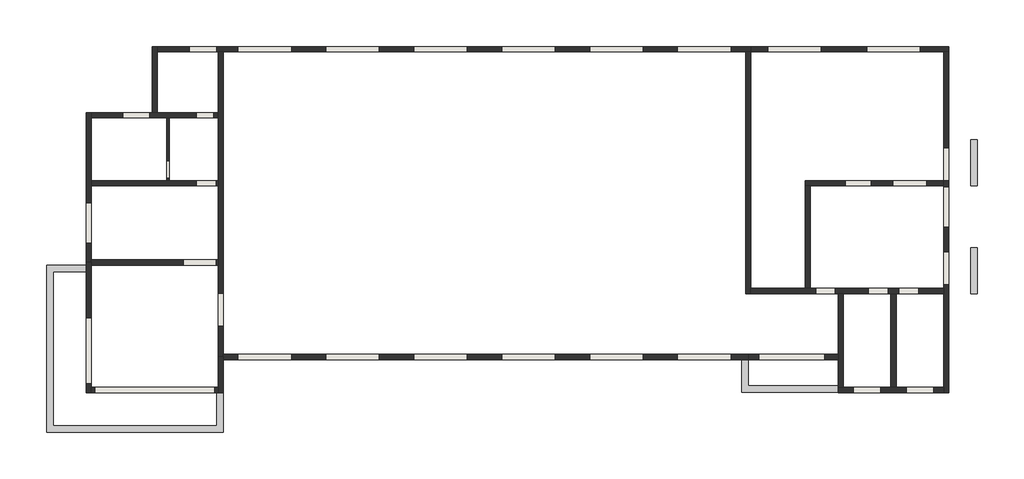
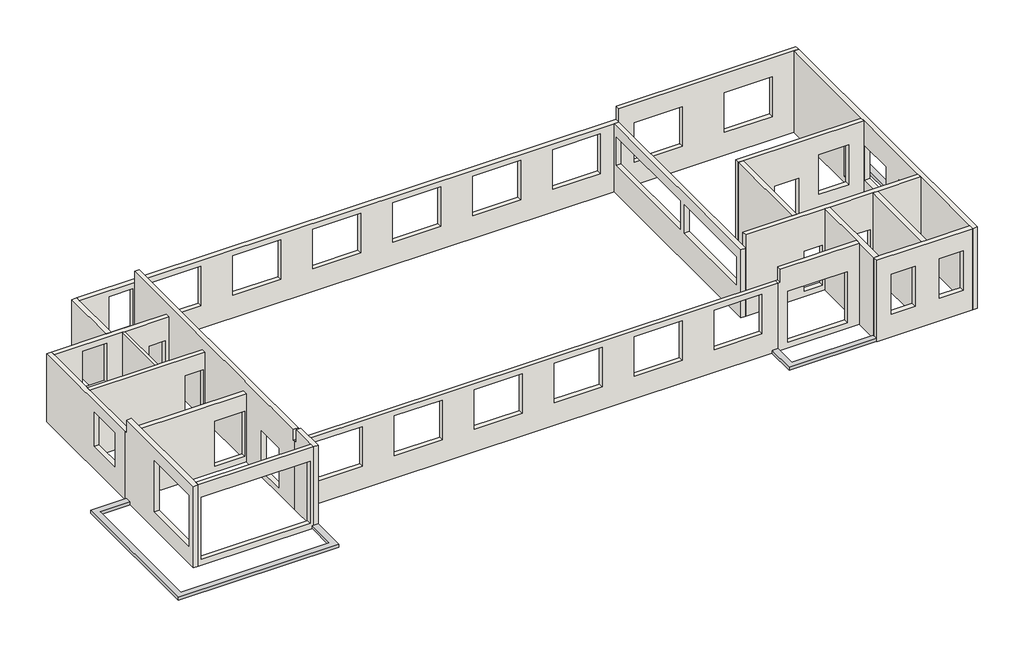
# One storey: 22 walls, 5 stairs.
"""IFC4 building model written with IfcOpenShell, lengths in millimetres."""

from ifc_helpers import new_model, si_unit, frame, origin, place, context, project, spatial, polyline, outline, extrude, faceted_brep, transform, mapped, element, save
from components import stair_686c99e5, stair_016f0c91, stair_664da505

model = new_model("IFC4")

# Units and contexts
model_context = context("Model", 3, world=origin())
ifc_project = project(units=[si_unit("LENGTHUNIT", "METRE", prefix="MILLI")], contexts=[model_context])

# Site, building, storey
site = spatial("IfcSite", under=ifc_project)
building = spatial("IfcBuilding", under=site)
storey = spatial("IfcBuildingStorey", under=building, Name="室外地坪", Elevation=-300.0)

# Stairs
placement = place(None, origin())
stair_shape = stair_686c99e5(model_context)
element("IfcStair", 1, ObjectType="楼梯 1 : 楼梯 1", at=placement, inside=storey, context=model_context, shape_type="MappedRepresentation", body=[
    mapped(stair_shape, transform((0.0, 0.0, 0.0), x_axis=(1.0, 0.0, 0.0), y_axis=(0.0, 1.0, 0.0), z_axis=(0.0, 0.0, 1.0))),
])
stair_2_shape = stair_016f0c91(model_context)
element("IfcStair", 2, ObjectType="楼梯 2 : 楼梯 2", at=placement, inside=storey, context=model_context, shape_type="MappedRepresentation", body=[
    mapped(stair_2_shape, transform((0.0, 0.0, 0.0), x_axis=(1.0, 0.0, 0.0), y_axis=(0.0, 1.0, 0.0), z_axis=(0.0, 0.0, 1.0))),
])
stair_3_shape = stair_664da505(model_context)
element("IfcStair", 3, at=placement, inside=storey, context=model_context, shape_type="MappedRepresentation", body=[
    mapped(stair_3_shape, transform((0.0, 0.0, 0.0), x_axis=(1.0, 0.0, 0.0), y_axis=(0.0, 1.0, 0.0), z_axis=(0.0, 0.0, 1.0))),
])
element("IfcStair", 4, at=placement, inside=storey, context=model_context, shape_type="MappedRepresentation", body=[
    mapped(stair_3_shape, transform((0.0, 0.0, 0.0), x_axis=(1.0, 0.0, 0.0), y_axis=(0.0, 1.0, 0.0), z_axis=(0.0, 0.0, 1.0))),
])
element("IfcStair", 5, ObjectType="楼梯 5 : 楼梯 3", at=placement, inside=storey, context=model_context, shape_type="MappedRepresentation", body=[
    mapped(stair_3_shape, transform((0.0, 4900.0, 0.0), x_axis=(1.0, 0.0, 0.0), y_axis=(0.0, 1.0, 0.0), z_axis=(0.0, 0.0, 1.0))),
])

# Walls
element("IfcWall", 6, ObjectType="240mm墙", at=placement, inside=storey, context=model_context, shape_type="Brep", body=[
    faceted_brep([(-3434.8947527, -10248.768361, -300.0), (-3434.8947527, -10008.768361, -300.0), (-3434.8947527, -4448.768361, -300.0), (-3434.8947527, -4328.768361, -300.0), (-3434.8947527, -4328.768361, 3300.0), (-3434.8947527, -4448.768361, 3300.0), (-3434.8947527, -4448.768361, 4000.0), (-3434.8947527, -10008.768361, 4000.0), (-3434.8947527, -10248.768361, 4000.0), (-3434.8947527, -9848.768361, 600.0), (-3434.8947527, -9848.768361, 3300.0), (-3434.8947527, -6848.768361, 3300.0), (-3434.8947527, -6848.768361, 600.0), (-3674.8947527, -4328.768361, -300.0), (-3674.8947527, -10248.768361, -300.0), (-3674.8947527, -10248.768361, 4000.0), (-3674.8947527, -4448.768361, 4000.0), (-3674.8947527, -4448.768361, 3300.0), (-3674.8947527, -4328.768361, 3300.0), (-3674.8947527, -9848.768361, 3300.0), (-3674.8947527, -9848.768361, 600.0), (-3674.8947527, -6848.768361, 600.0), (-3674.8947527, -6848.768361, 3300.0)], [[[0, 1, 2, 3, 4, 5, 6, 7, 8], [9, 10, 11, 12]], [[13, 14, 15, 16, 17, 18], [19, 20, 21, 22]], [[3, 2, 1, 0, 14, 13]], [[8, 7, 6, 16, 15]], [[0, 8, 15, 14]], [[9, 20, 19, 10]], [[11, 22, 21, 12]], [[20, 9, 12, 21]], [[22, 11, 10, 19]], [[3, 13, 18, 4]], [[5, 4, 18, 17]], [[6, 5, 17, 16]]]),
])
element("IfcWall", 7, ObjectType="240mm墙", at=placement, inside=storey, context=model_context, shape_type="Brep", body=[
    faceted_brep([(-3434.8947527, 2251.231639, -300.0), (-14.8947527, 2251.231639, -300.0), (105.1052473, 2251.231639, -300.0), (2325.1052473, 2251.231639, -300.0), (2325.1052473, 2251.231639, 3300.0), (105.1052473, 2251.231639, 3300.0), (-14.8947527, 2251.231639, 3300.0), (-3434.8947527, 2251.231639, 3300.0), (1325.1052473, 2251.231639, 0.0), (1325.1052473, 2251.231639, 2100.0), (2125.1052473, 2251.231639, 2100.0), (2125.1052473, 2251.231639, 0.0), (-794.8947527, 2251.231639, 900.0), (-1994.8947527, 2251.231639, 900.0), (-1994.8947527, 2251.231639, 3000.0), (-794.8947527, 2251.231639, 3000.0), (-3434.8947527, 2491.231639, -300.0), (-3434.8947527, 2491.231639, 3300.0), (-674.8947527, 2491.231639, 3300.0), (-434.8947527, 2491.231639, 3300.0), (2325.1052473, 2491.231639, 3300.0), (2325.1052473, 2491.231639, -300.0), (-434.8947527, 2491.231639, -300.0), (-674.8947527, 2491.231639, -300.0), (1325.1052473, 2491.231639, 0.0), (2125.1052473, 2491.231639, 0.0), (2125.1052473, 2491.231639, 2100.0), (1325.1052473, 2491.231639, 2100.0), (-794.8947527, 2491.231639, 900.0), (-794.8947527, 2491.231639, 3000.0), (-1994.8947527, 2491.231639, 3000.0), (-1994.8947527, 2491.231639, 900.0)], [[[0, 1, 2, 3, 4, 5, 6, 7], [8, 9, 10, 11], [12, 13, 14, 15]], [[16, 17, 18, 19, 20, 21, 22, 23], [24, 25, 26, 27], [28, 29, 30, 31]], [[3, 2, 1, 0, 16, 23, 22, 21]], [[7, 6, 5, 4, 20, 19, 18, 17]], [[0, 7, 17, 16]], [[4, 3, 21, 20]], [[25, 24, 8, 11]], [[26, 25, 11, 10]], [[27, 26, 10, 9]], [[24, 27, 9, 8]], [[29, 28, 12, 15]], [[30, 29, 15, 14]], [[31, 30, 14, 13]], [[28, 31, 13, 12]]]),
])
element("IfcWall", 8, ObjectType="240mm墙", at=placement, inside=storey, context=model_context, shape_type="Brep", body=[
    faceted_brep([(-434.8947527, 2491.231639, -300.0), (-434.8947527, 5251.231639, -300.0), (-434.8947527, 5491.231639, -300.0), (-434.8947527, 5491.231639, 3300.0), (-434.8947527, 5251.231639, 3300.0), (-434.8947527, 2491.231639, 3300.0), (-674.8947527, 2491.231639, -300.0), (-674.8947527, 2491.231639, 3300.0), (-674.8947527, 5491.231639, 3300.0), (-674.8947527, 5491.231639, -300.0)], [[[0, 1, 2, 3, 4, 5]], [[6, 7, 8, 9]], [[2, 1, 0, 6, 9]], [[5, 4, 3, 8, 7]], [[0, 5, 7, 6]], [[3, 2, 9, 8]]]),
])
element("IfcWall", 9, ObjectType="240mm墙", at=placement, inside=storey, context=model_context, shape_type="Brep", body=[
    faceted_brep([(-434.8947527, 5251.231639, -300.0), (2325.1052473, 5251.231639, -300.0), (2565.1052473, 5251.231639, -300.0), (26325.1052473, 5251.231639, -300.0), (26565.1052473, 5251.231639, -300.0), (26565.1052473, 5251.231639, 3300.0), (26325.1052473, 5251.231639, 3300.0), (-434.8947527, 5251.231639, 3300.0), (25645.1052473, 5251.231639, 900.0), (23245.1052473, 5251.231639, 900.0), (23245.1052473, 5251.231639, 3000.0), (25645.1052473, 5251.231639, 3000.0), (21645.1052473, 5251.231639, 900.0), (19245.1052473, 5251.231639, 900.0), (19245.1052473, 5251.231639, 3000.0), (21645.1052473, 5251.231639, 3000.0), (17645.1052473, 5251.231639, 900.0), (15245.1052473, 5251.231639, 900.0), (15245.1052473, 5251.231639, 3000.0), (17645.1052473, 5251.231639, 3000.0), (13645.1052473, 5251.231639, 900.0), (11245.1052473, 5251.231639, 900.0), (11245.1052473, 5251.231639, 3000.0), (13645.1052473, 5251.231639, 3000.0), (9645.1052473, 5251.231639, 900.0), (7245.1052473, 5251.231639, 900.0), (7245.1052473, 5251.231639, 3000.0), (9645.1052473, 5251.231639, 3000.0), (5645.1052473, 5251.231639, 900.0), (3245.1052473, 5251.231639, 900.0), (3245.1052473, 5251.231639, 3000.0), (5645.1052473, 5251.231639, 3000.0), (1045.1052473, 5251.231639, 900.0), (1045.1052473, 5251.231639, 3000.0), (2245.1052473, 5251.231639, 3000.0), (2245.1052473, 5251.231639, 900.0), (-434.8947527, 5491.231639, -300.0), (-434.8947527, 5491.231639, 3300.0), (26565.1052473, 5491.231639, 3300.0), (26565.1052473, 5491.231639, -300.0), (25645.1052473, 5491.231639, 900.0), (25645.1052473, 5491.231639, 3000.0), (23245.1052473, 5491.231639, 3000.0), (23245.1052473, 5491.231639, 900.0), (21645.1052473, 5491.231639, 900.0), (21645.1052473, 5491.231639, 3000.0), (19245.1052473, 5491.231639, 3000.0), (19245.1052473, 5491.231639, 900.0), (17645.1052473, 5491.231639, 900.0), (17645.1052473, 5491.231639, 3000.0), (15245.1052473, 5491.231639, 3000.0), (15245.1052473, 5491.231639, 900.0), (13645.1052473, 5491.231639, 900.0), (13645.1052473, 5491.231639, 3000.0), (11245.1052473, 5491.231639, 3000.0), (11245.1052473, 5491.231639, 900.0), (9645.1052473, 5491.231639, 900.0), (9645.1052473, 5491.231639, 3000.0), (7245.1052473, 5491.231639, 3000.0), (7245.1052473, 5491.231639, 900.0), (5645.1052473, 5491.231639, 900.0), (5645.1052473, 5491.231639, 3000.0), (3245.1052473, 5491.231639, 3000.0), (3245.1052473, 5491.231639, 900.0), (1045.1052473, 5491.231639, 900.0), (2245.1052473, 5491.231639, 900.0), (2245.1052473, 5491.231639, 3000.0), (1045.1052473, 5491.231639, 3000.0)], [[[0, 1, 2, 3, 4, 5, 6, 7], [8, 9, 10, 11], [12, 13, 14, 15], [16, 17, 18, 19], [20, 21, 22, 23], [24, 25, 26, 27], [28, 29, 30, 31], [32, 33, 34, 35]], [[36, 37, 38, 39], [40, 41, 42, 43], [44, 45, 46, 47], [48, 49, 50, 51], [52, 53, 54, 55], [56, 57, 58, 59], [60, 61, 62, 63], [64, 65, 66, 67]], [[4, 3, 2, 1, 0, 36, 39]], [[7, 6, 5, 38, 37]], [[0, 7, 37, 36]], [[41, 40, 8, 11]], [[42, 41, 11, 10]], [[43, 42, 10, 9]], [[40, 43, 9, 8]], [[45, 44, 12, 15]], [[46, 45, 15, 14]], [[47, 46, 14, 13]], [[44, 47, 13, 12]], [[49, 48, 16, 19]], [[50, 49, 19, 18]], [[51, 50, 18, 17]], [[48, 51, 17, 16]], [[53, 52, 20, 23]], [[54, 53, 23, 22]], [[55, 54, 22, 21]], [[52, 55, 21, 20]], [[57, 56, 24, 27]], [[58, 57, 27, 26]], [[59, 58, 26, 25]], [[56, 59, 25, 24]], [[61, 60, 28, 31]], [[62, 61, 31, 30]], [[63, 62, 30, 29]], [[60, 63, 29, 28]], [[33, 32, 64, 67]], [[34, 33, 67, 66]], [[35, 34, 66, 65]], [[32, 35, 65, 64]], [[5, 4, 39, 38]]]),
])
element("IfcWall", 10, ObjectType="240mm墙", at=placement, inside=storey, context=model_context, shape_type="Brep", body=[
    faceted_brep([(35325.1052473, 5251.231639, -300.0), (35325.1052473, -608.768361, -300.0), (35325.1052473, -848.768361, -300.0), (35325.1052473, -5508.768361, -300.0), (35325.1052473, -5748.768361, -300.0), (35325.1052473, -10008.768361, -300.0), (35325.1052473, -10248.768361, -300.0), (35325.1052473, -10248.768361, 4000.0), (35325.1052473, -10008.768361, 4000.0), (35325.1052473, -5748.768361, 4000.0), (35325.1052473, -5508.768361, 4000.0), (35325.1052473, -848.768361, 4000.0), (35325.1052473, -608.768361, 4000.0), (35325.1052473, 5251.231639, 4000.0), (35325.1052473, -5348.768361, 0.0), (35325.1052473, -3848.768361, 0.0), (35325.1052473, -3848.768361, 2700.0), (35325.1052473, -5348.768361, 2700.0), (35325.1052473, -608.768361, 0.0), (35325.1052473, 891.231639, 0.0), (35325.1052473, 891.231639, 2700.0), (35325.1052473, -608.768361, 2700.0), (35325.1052473, -2708.768361, 2700.0), (35325.1052473, -2708.768361, 900.0), (35325.1052473, -908.768361, 900.0), (35325.1052473, -908.768361, 2700.0), (35565.1052473, 5251.231639, -300.0), (35565.1052473, 5251.231639, 4000.0), (35565.1052473, -10248.768361, 4000.0), (35565.1052473, -10248.768361, -300.0), (35565.1052473, -5348.768361, 0.0), (35565.1052473, -5348.768361, 2700.0), (35565.1052473, -3848.768361, 2700.0), (35565.1052473, -3848.768361, 0.0), (35565.1052473, -608.768361, 0.0), (35565.1052473, -608.768361, 2700.0), (35565.1052473, 891.231639, 2700.0), (35565.1052473, 891.231639, 0.0), (35565.1052473, -2708.768361, 2700.0), (35565.1052473, -908.768361, 2700.0), (35565.1052473, -908.768361, 900.0), (35565.1052473, -2708.768361, 900.0)], [[[0, 1, 2, 3, 4, 5, 6, 7, 8, 9, 10, 11, 12, 13], [14, 15, 16, 17], [18, 19, 20, 21], [22, 23, 24, 25]], [[26, 27, 28, 29], [30, 31, 32, 33], [34, 35, 36, 37], [38, 39, 40, 41]], [[6, 5, 4, 3, 2, 1, 0, 26, 29]], [[13, 12, 11, 10, 9, 8, 7, 28, 27]], [[0, 13, 27, 26]], [[7, 6, 29, 28]], [[31, 30, 14, 17]], [[32, 31, 17, 16]], [[33, 32, 16, 15]], [[30, 33, 15, 14]], [[35, 34, 18, 21]], [[36, 35, 21, 20]], [[37, 36, 20, 19]], [[34, 37, 19, 18]], [[23, 22, 38, 41]], [[24, 23, 41, 40]], [[25, 24, 40, 39]], [[22, 25, 39, 38]]]),
])
element("IfcWall", 11, ObjectType="240mm墙", at=placement, inside=storey, context=model_context, shape_type="Brep", body=[
    faceted_brep([(35325.1052473, -10008.768361, -300.0), (33165.1052473, -10008.768361, -300.0), (32925.1052473, -10008.768361, -300.0), (30765.1052473, -10008.768361, -300.0), (30525.1052473, -10008.768361, -300.0), (30525.1052473, -10008.768361, 4000.0), (30765.1052473, -10008.768361, 4000.0), (32925.1052473, -10008.768361, 4000.0), (33165.1052473, -10008.768361, 4000.0), (35325.1052473, -10008.768361, 4000.0), (32445.1052473, -10008.768361, 900.0), (32445.1052473, -10008.768361, 3000.0), (31245.1052473, -10008.768361, 3000.0), (31245.1052473, -10008.768361, 900.0), (34845.1052473, -10008.768361, 900.0), (34845.1052473, -10008.768361, 3000.0), (33645.1052473, -10008.768361, 3000.0), (33645.1052473, -10008.768361, 900.0), (35325.1052473, -10248.768361, -300.0), (35325.1052473, -10248.768361, 4000.0), (30525.1052473, -10248.768361, 4000.0), (30525.1052473, -10248.768361, -300.0), (32445.1052473, -10248.768361, 900.0), (31245.1052473, -10248.768361, 900.0), (31245.1052473, -10248.768361, 3000.0), (32445.1052473, -10248.768361, 3000.0), (34845.1052473, -10248.768361, 900.0), (33645.1052473, -10248.768361, 900.0), (33645.1052473, -10248.768361, 3000.0), (34845.1052473, -10248.768361, 3000.0)], [[[0, 1, 2, 3, 4, 5, 6, 7, 8, 9], [10, 11, 12, 13], [14, 15, 16, 17]], [[18, 19, 20, 21], [22, 23, 24, 25], [26, 27, 28, 29]], [[4, 3, 2, 1, 0, 18, 21]], [[9, 8, 7, 6, 5, 20, 19]], [[0, 9, 19, 18]], [[5, 4, 21, 20]], [[11, 10, 22, 25]], [[12, 11, 25, 24]], [[13, 12, 24, 23]], [[10, 13, 23, 22]], [[15, 14, 26, 29]], [[16, 15, 29, 28]], [[17, 16, 28, 27]], [[14, 17, 27, 26]]]),
])
element("IfcWall", 12, ObjectType="240mm墙", at=placement, inside=storey, context=model_context, shape_type="Brep", body=[
    faceted_brep([(30765.1052473, -10008.768361, -300.0), (30765.1052473, -5748.768361, -300.0), (30765.1052473, -5748.768361, 4000.0), (30765.1052473, -10008.768361, 4000.0), (30525.1052473, -10008.768361, -300.0), (30525.1052473, -10008.768361, 4000.0), (30525.1052473, -8748.768361, 4000.0), (30525.1052473, -8508.768361, 4000.0), (30525.1052473, -5748.768361, 4000.0), (30525.1052473, -5748.768361, -300.0), (30525.1052473, -8508.768361, -300.0), (30525.1052473, -8748.768361, -300.0)], [[[0, 1, 2, 3]], [[4, 5, 6, 7, 8, 9, 10, 11]], [[1, 0, 4, 11, 10, 9]], [[3, 2, 8, 7, 6, 5]], [[0, 3, 5, 4]], [[2, 1, 9, 8]]]),
])
element("IfcWall", 13, ObjectType="240mm墙", at=placement, inside=storey, context=model_context, shape_type="SweptSolid", body=[
    extrude(outline(polyline([(-300.0, 30525.1052473), (4000.0, 30525.1052473), (4000.0, 26565.1052473), (3300.0, 26565.1052473), (3300.0, 26445.1052473), (-300.0, 26445.1052473), (-300.0, 30525.1052473)]), holes=[polyline([(0.0, 26925.1052473), (2700.0, 26925.1052473), (2700.0, 29925.1052473), (0.0, 29925.1052473), (0.0, 26925.1052473)])]), frame((0.0, -8748.768361, 0.0), z_axis=(0.0, 1.0, 0.0), x_axis=(0.0, 0.0, 1.0)), (0.0, 0.0, 1.0), 240.0),
])
element("IfcWall", 14, ObjectType="240mm墙", at=placement, inside=storey, context=model_context, shape_type="Brep", body=[
    faceted_brep([(2325.1052473, 5251.231639, 3880.0), (2325.1052473, 5251.231639, -300.0), (2325.1052473, 2491.231639, -300.0), (2325.1052473, 2251.231639, -300.0), (2325.1052473, -608.768361, -300.0), (2325.1052473, -848.768361, -300.0), (2325.1052473, -4208.768361, -300.0), (2325.1052473, -4448.768361, -300.0), (2325.1052473, -8628.768361, -300.0), (2325.1052473, -8628.768361, 3300.0), (2325.1052473, -8508.768361, 3300.0), (2325.1052473, -8508.768361, 3880.0), (2325.1052473, -4448.768361, 3880.0), (2325.1052473, -4208.768361, 3880.0), (2325.1052473, -848.768361, 3880.0), (2325.1052473, -608.768361, 3880.0), (2325.1052473, -5728.768361, 0.0), (2325.1052473, -5728.768361, 2100.0), (2325.1052473, -7228.768361, 2100.0), (2325.1052473, -7228.768361, 0.0), (2565.1052473, 5251.231639, -300.0), (2565.1052473, 5251.231639, 3880.0), (2565.1052473, -608.768361, 3880.0), (2565.1052473, -848.768361, 3880.0), (2565.1052473, -4208.768361, 3880.0), (2565.1052473, -4448.768361, 3880.0), (2565.1052473, -8508.768361, 3880.0), (2565.1052473, -8508.768361, 3300.0), (2565.1052473, -8628.768361, 3300.0), (2565.1052473, -8628.768361, -300.0), (2565.1052473, -8508.768361, -300.0), (2565.1052473, -5728.768361, 0.0), (2565.1052473, -7228.768361, 0.0), (2565.1052473, -7228.768361, 2100.0), (2565.1052473, -5728.768361, 2100.0)], [[[0, 1, 2, 3, 4, 5, 6, 7, 8, 9, 10, 11, 12, 13, 14, 15], [16, 17, 18, 19]], [[20, 21, 22, 23, 24, 25, 26, 27, 28, 29, 30], [31, 32, 33, 34]], [[8, 7, 6, 5, 4, 3, 2, 1, 20, 30, 29]], [[0, 15, 14, 13, 12, 11, 26, 25, 24, 23, 22, 21]], [[17, 16, 31, 34]], [[18, 17, 34, 33]], [[19, 18, 33, 32]], [[16, 19, 32, 31]], [[9, 8, 29, 28]], [[27, 10, 9, 28]], [[11, 10, 27, 26]], [[0, 21, 20, 1]]]),
])
element("IfcWall", 15, ObjectType="240mm墙", at=placement, inside=storey, context=model_context, shape_type="SweptSolid", body=[
    extrude(outline(polyline([(-300.0, 2325.1052473), (4000.0, 2325.1052473), (4000.0, -3434.8947527), (-300.0, -3434.8947527), (-300.0, 2325.1052473)]), holes=[polyline([(0.0, -3274.8947527), (3300.0, -3274.8947527), (3300.0, 2165.1052473), (0.0, 2165.1052473), (0.0, -3274.8947527)])]), frame((0.0, -10248.768361, 0.0), z_axis=(0.0, 1.0, 0.0), x_axis=(0.0, 0.0, 1.0)), (0.0, 0.0, 1.0), 240.0),
])
element("IfcWall", 16, ObjectType="240mm墙", at=placement, inside=storey, context=model_context, shape_type="Brep", body=[
    faceted_brep([(-3434.8947527, -848.768361, -300.0), (2325.1052473, -848.768361, -300.0), (2325.1052473, -848.768361, 3300.0), (-3434.8947527, -848.768361, 3300.0), (2245.1052473, -848.768361, 0.0), (1345.1052473, -848.768361, 0.0), (1345.1052473, -848.768361, 2400.0), (2245.1052473, -848.768361, 2400.0), (-3434.8947527, -608.768361, -300.0), (-3434.8947527, -608.768361, 3300.0), (-14.8947527, -608.768361, 3300.0), (105.1052473, -608.768361, 3300.0), (2325.1052473, -608.768361, 3300.0), (2325.1052473, -608.768361, -300.0), (105.1052473, -608.768361, -300.0), (-14.8947527, -608.768361, -300.0), (2245.1052473, -608.768361, 0.0), (2245.1052473, -608.768361, 2400.0), (1345.1052473, -608.768361, 2400.0), (1345.1052473, -608.768361, 0.0)], [[[0, 1, 2, 3], [4, 5, 6, 7]], [[8, 9, 10, 11, 12, 13, 14, 15], [16, 17, 18, 19]], [[1, 0, 8, 15, 14, 13]], [[3, 2, 12, 11, 10, 9]], [[0, 3, 9, 8]], [[2, 1, 13, 12]], [[17, 16, 4, 7]], [[18, 17, 7, 6]], [[19, 18, 6, 5]], [[16, 19, 5, 4]]]),
])
element("IfcWall", 17, ObjectType="240mm墙", at=placement, inside=storey, context=model_context, shape_type="Brep", body=[
    faceted_brep([(-3434.8947527, -4448.768361, -300.0), (2325.1052473, -4448.768361, -300.0), (2325.1052473, -4448.768361, 3300.0), (-3434.8947527, -4448.768361, 3300.0), (745.1052473, -4448.768361, 0.0), (745.1052473, -4448.768361, 2400.0), (2245.1052473, -4448.768361, 2400.0), (2245.1052473, -4448.768361, 0.0), (-3434.8947527, -4208.768361, -300.0), (-3434.8947527, -4208.768361, 3300.0), (2325.1052473, -4208.768361, 3300.0), (2325.1052473, -4208.768361, -300.0), (745.1052473, -4208.768361, 0.0), (2245.1052473, -4208.768361, 0.0), (2245.1052473, -4208.768361, 2400.0), (745.1052473, -4208.768361, 2400.0), (-3434.8947527, -4328.768361, -300.0), (-3434.8947527, -4328.768361, 3300.0)], [[[0, 1, 2, 3], [4, 5, 6, 7]], [[8, 9, 10, 11], [12, 13, 14, 15]], [[1, 0, 16, 8, 11]], [[3, 2, 10, 9, 17]], [[2, 1, 11, 10]], [[5, 4, 12, 15]], [[6, 5, 15, 14]], [[7, 6, 14, 13]], [[4, 7, 13, 12]], [[0, 3, 17, 9, 8, 16]]]),
])
element("IfcWall", 18, ObjectType="120mm墙", at=placement, inside=storey, context=model_context, shape_type="SweptSolid", body=[
    extrude(outline(polyline([(2251.231639, -300.0), (-608.768361, -300.0), (-608.768361, 3300.0), (2251.231639, 3300.0), (2251.231639, -300.0)]), holes=[polyline([(291.231639, 0.0), (291.231639, 2100.0), (-508.768361, 2100.0), (-508.768361, 0.0), (291.231639, 0.0)])]), frame((-14.8947527, 0.0, 0.0), z_axis=(1.0, 0.0, 0.0), x_axis=(0.0, 1.0, 0.0)), (0.0, 0.0, 1.0), 120.0),
])
element("IfcWall", 19, ObjectType="240mm墙", at=placement, inside=storey, context=model_context, shape_type="Brep", body=[
    faceted_brep([(26325.1052473, 5251.231639, -300.0), (26325.1052473, -5748.768361, -300.0), (26325.1052473, -5748.768361, 3300.0), (26325.1052473, 5251.231639, 3300.0), (26325.1052473, -498.768361, 1200.0), (26325.1052473, 5066.231639, 1200.0), (26325.1052473, 5066.231639, 2700.0), (26325.1052473, -498.768361, 2700.0), (26325.1052473, -833.768361, 2700.0), (26325.1052473, -5358.768361, 2700.0), (26325.1052473, -5358.768361, 1200.0), (26325.1052473, -833.768361, 1200.0), (26565.1052473, -5748.768361, -300.0), (26565.1052473, -5508.768361, -300.0), (26565.1052473, 5251.231639, -300.0), (26565.1052473, 5251.231639, 3300.0), (26565.1052473, -5748.768361, 3300.0), (26565.1052473, -498.768361, 1200.0), (26565.1052473, -498.768361, 2700.0), (26565.1052473, 5066.231639, 2700.0), (26565.1052473, 5066.231639, 1200.0), (26565.1052473, -5358.768361, 2700.0), (26565.1052473, -833.768361, 2700.0), (26565.1052473, -833.768361, 1200.0), (26565.1052473, -5358.768361, 1200.0)], [[[0, 1, 2, 3], [4, 5, 6, 7], [8, 9, 10, 11]], [[12, 13, 14, 15, 16], [17, 18, 19, 20], [21, 22, 23, 24]], [[1, 0, 14, 13, 12]], [[3, 2, 16, 15]], [[2, 1, 12, 16]], [[18, 17, 4, 7]], [[19, 18, 7, 6]], [[20, 19, 6, 5]], [[17, 20, 5, 4]], [[21, 9, 8, 22]], [[22, 8, 11, 23]], [[23, 11, 10, 24]], [[9, 21, 24, 10]], [[0, 3, 15, 14]]]),
])
element("IfcWall", 20, ObjectType="240mm墙", at=placement, inside=storey, context=model_context, shape_type="Brep", body=[
    faceted_brep([(26565.1052473, -5748.768361, -300.0), (30525.1052473, -5748.768361, -300.0), (30765.1052473, -5748.768361, -300.0), (32925.1052473, -5748.768361, -300.0), (33165.1052473, -5748.768361, -300.0), (35325.1052473, -5748.768361, -300.0), (35325.1052473, -5748.768361, 4000.0), (33165.1052473, -5748.768361, 4000.0), (32925.1052473, -5748.768361, 4000.0), (30765.1052473, -5748.768361, 4000.0), (30525.1052473, -5748.768361, 4000.0), (26565.1052473, -5748.768361, 4000.0), (26565.1052473, -5748.768361, 3300.0), (29505.1052473, -5748.768361, 0.0), (29505.1052473, -5748.768361, 2100.0), (30405.1052473, -5748.768361, 2100.0), (30405.1052473, -5748.768361, 0.0), (31905.1052473, -5748.768361, 0.0), (31905.1052473, -5748.768361, 2100.0), (32805.1052473, -5748.768361, 2100.0), (32805.1052473, -5748.768361, 0.0), (34185.1052473, -5748.768361, 0.0), (33285.1052473, -5748.768361, 0.0), (33285.1052473, -5748.768361, 2100.0), (34185.1052473, -5748.768361, 2100.0), (26565.1052473, -5508.768361, -300.0), (26565.1052473, -5508.768361, 4000.0), (29025.1052473, -5508.768361, 4000.0), (29265.1052473, -5508.768361, 4000.0), (35325.1052473, -5508.768361, 4000.0), (35325.1052473, -5508.768361, -300.0), (29265.1052473, -5508.768361, -300.0), (29025.1052473, -5508.768361, -300.0), (29505.1052473, -5508.768361, 0.0), (30405.1052473, -5508.768361, 0.0), (30405.1052473, -5508.768361, 2100.0), (29505.1052473, -5508.768361, 2100.0), (31905.1052473, -5508.768361, 0.0), (32805.1052473, -5508.768361, 0.0), (32805.1052473, -5508.768361, 2100.0), (31905.1052473, -5508.768361, 2100.0), (34185.1052473, -5508.768361, 0.0), (34185.1052473, -5508.768361, 2100.0), (33285.1052473, -5508.768361, 2100.0), (33285.1052473, -5508.768361, 0.0)], [[[0, 1, 2, 3, 4, 5, 6, 7, 8, 9, 10, 11, 12], [13, 14, 15, 16], [17, 18, 19, 20], [21, 22, 23, 24]], [[25, 26, 27, 28, 29, 30, 31, 32], [33, 34, 35, 36], [37, 38, 39, 40], [41, 42, 43, 44]], [[5, 4, 3, 2, 1, 0, 25, 32, 31, 30]], [[11, 10, 9, 8, 7, 6, 29, 28, 27, 26]], [[0, 12, 11, 26, 25]], [[6, 5, 30, 29]], [[34, 33, 13, 16]], [[35, 34, 16, 15]], [[36, 35, 15, 14]], [[33, 36, 14, 13]], [[38, 37, 17, 20]], [[39, 38, 20, 19]], [[40, 39, 19, 18]], [[37, 40, 18, 17]], [[22, 21, 41, 44]], [[23, 22, 44, 43]], [[24, 23, 43, 42]], [[21, 24, 42, 41]]]),
])
element("IfcWall", 21, ObjectType="240mm墙", at=placement, inside=storey, context=model_context, shape_type="Brep", body=[
    faceted_brep([(35325.1052473, -608.768361, -300.0), (29025.1052473, -608.768361, -300.0), (29025.1052473, -608.768361, 4000.0), (35325.1052473, -608.768361, 4000.0), (35325.1052473, -608.768361, 2700.0), (35325.1052473, -608.768361, 0.0), (30845.1052473, -608.768361, 0.0), (32045.1052473, -608.768361, 0.0), (32045.1052473, -608.768361, 2100.0), (30845.1052473, -608.768361, 2100.0), (34545.1052473, -608.768361, 900.0), (34545.1052473, -608.768361, 3000.0), (33045.1052473, -608.768361, 3000.0), (33045.1052473, -608.768361, 900.0), (35325.1052473, -848.768361, -300.0), (35325.1052473, -848.768361, 4000.0), (29265.1052473, -848.768361, 4000.0), (29025.1052473, -848.768361, 4000.0), (29025.1052473, -848.768361, -300.0), (29265.1052473, -848.768361, -300.0), (30845.1052473, -848.768361, 0.0), (30845.1052473, -848.768361, 2100.0), (32045.1052473, -848.768361, 2100.0), (32045.1052473, -848.768361, 0.0), (34545.1052473, -848.768361, 900.0), (33045.1052473, -848.768361, 900.0), (33045.1052473, -848.768361, 3000.0), (34545.1052473, -848.768361, 3000.0)], [[[0, 1, 2, 3, 4, 5], [6, 7, 8, 9], [10, 11, 12, 13]], [[14, 15, 16, 17, 18, 19], [20, 21, 22, 23], [24, 25, 26, 27]], [[1, 0, 14, 19, 18]], [[3, 2, 17, 16, 15]], [[0, 5, 4, 3, 15, 14]], [[2, 1, 18, 17]], [[21, 20, 6, 9]], [[22, 21, 9, 8]], [[23, 22, 8, 7]], [[20, 23, 7, 6]], [[11, 10, 24, 27]], [[12, 11, 27, 26]], [[13, 12, 26, 25]], [[10, 13, 25, 24]]]),
])
element("IfcWall", 22, ObjectType="240mm墙", at=placement, inside=storey, context=model_context, shape_type="SweptSolid", body=[
    extrude(outline(polyline([(29025.1052473, -5508.768361), (29025.1052473, -848.768361), (29265.1052473, -848.768361), (29265.1052473, -5508.768361), (29025.1052473, -5508.768361)])), frame((0.0, 0.0, -300.0), z_axis=(0.0, 0.0, 1.0), x_axis=(1.0, 0.0, 0.0)), (0.0, 0.0, 1.0), 4300.0),
])
element("IfcWall", 23, ObjectType="240mm墙", at=placement, inside=storey, context=model_context, shape_type="SweptSolid", body=[
    extrude(outline(polyline([(33165.1052473, -5748.768361), (33165.1052473, -10008.768361), (32925.1052473, -10008.768361), (32925.1052473, -5748.768361), (33165.1052473, -5748.768361)])), frame((0.0, 0.0, -300.0), z_axis=(0.0, 0.0, 1.0), x_axis=(1.0, 0.0, 0.0)), (0.0, 0.0, 1.0), 4300.0),
])
element("IfcWall", 24, ObjectType="240mm墙", at=placement, inside=storey, context=model_context, shape_type="Brep", body=[
    faceted_brep([(-3434.8947527, -4328.768361, -300.0), (-3434.8947527, -4208.768361, -300.0), (-3434.8947527, -848.768361, -300.0), (-3434.8947527, -608.768361, -300.0), (-3434.8947527, 2251.231639, -300.0), (-3434.8947527, 2491.231639, -300.0), (-3434.8947527, 2491.231639, 3300.0), (-3434.8947527, 2251.231639, 3300.0), (-3434.8947527, -608.768361, 3300.0), (-3434.8947527, -848.768361, 3300.0), (-3434.8947527, -4208.768361, 3300.0), (-3434.8947527, -4328.768361, 3300.0), (-3434.8947527, -1628.768361, 2700.0), (-3434.8947527, -1628.768361, 900.0), (-3434.8947527, -3428.768361, 900.0), (-3434.8947527, -3428.768361, 2700.0), (-3674.8947527, -4328.768361, -300.0), (-3674.8947527, -4328.768361, 3300.0), (-3674.8947527, 2491.231639, 3300.0), (-3674.8947527, 2491.231639, -300.0), (-3674.8947527, -1628.768361, 2700.0), (-3674.8947527, -3428.768361, 2700.0), (-3674.8947527, -3428.768361, 900.0), (-3674.8947527, -1628.768361, 900.0)], [[[0, 1, 2, 3, 4, 5, 6, 7, 8, 9, 10, 11], [12, 13, 14, 15]], [[16, 17, 18, 19], [20, 21, 22, 23]], [[5, 4, 3, 2, 1, 0, 16, 19]], [[11, 10, 9, 8, 7, 6, 18, 17]], [[0, 11, 17, 16]], [[6, 5, 19, 18]], [[12, 15, 21, 20]], [[15, 14, 22, 21]], [[14, 13, 23, 22]], [[13, 12, 20, 23]]]),
])
element("IfcWall", 25, ObjectType="240mm墙", at=placement, inside=storey, context=model_context, shape_type="Brep", body=[
    faceted_brep([(2325.1052473, -8628.768361, -300.0), (2325.1052473, -10008.768361, -300.0), (2325.1052473, -10248.768361, -300.0), (2325.1052473, -10248.768361, 4000.0), (2325.1052473, -10008.768361, 4000.0), (2325.1052473, -8748.768361, 4000.0), (2325.1052473, -8748.768361, 3300.0), (2325.1052473, -8628.768361, 3300.0), (2565.1052473, -8628.768361, -300.0), (2565.1052473, -8628.768361, 3300.0), (2565.1052473, -8748.768361, 3300.0), (2565.1052473, -8748.768361, 4000.0), (2565.1052473, -10248.768361, 4000.0), (2565.1052473, -10248.768361, -300.0), (2565.1052473, -8748.768361, -300.0)], [[[0, 1, 2, 3, 4, 5, 6, 7]], [[8, 9, 10, 11, 12, 13, 14]], [[2, 1, 0, 8, 14, 13]], [[5, 4, 3, 12, 11]], [[3, 2, 13, 12]], [[0, 7, 9, 8]], [[6, 10, 9, 7]], [[5, 11, 10, 6]]]),
])
element("IfcWall", 26, ObjectType="240mm墙", at=placement, inside=storey, context=model_context, shape_type="Brep", body=[
    faceted_brep([(26445.1052473, -8508.768361, -300.0), (2565.1052473, -8508.768361, -300.0), (2565.1052473, -8508.768361, 3300.0), (26445.1052473, -8508.768361, 3300.0), (5645.1052473, -8508.768361, 900.0), (5645.1052473, -8508.768361, 3000.0), (3245.1052473, -8508.768361, 3000.0), (3245.1052473, -8508.768361, 900.0), (9645.1052473, -8508.768361, 900.0), (9645.1052473, -8508.768361, 3000.0), (7245.1052473, -8508.768361, 3000.0), (7245.1052473, -8508.768361, 900.0), (13645.1052473, -8508.768361, 900.0), (13645.1052473, -8508.768361, 3000.0), (11245.1052473, -8508.768361, 3000.0), (11245.1052473, -8508.768361, 900.0), (17645.1052473, -8508.768361, 900.0), (17645.1052473, -8508.768361, 3000.0), (15245.1052473, -8508.768361, 3000.0), (15245.1052473, -8508.768361, 900.0), (21645.1052473, -8508.768361, 900.0), (21645.1052473, -8508.768361, 3000.0), (19245.1052473, -8508.768361, 3000.0), (19245.1052473, -8508.768361, 900.0), (25645.1052473, -8508.768361, 900.0), (25645.1052473, -8508.768361, 3000.0), (23245.1052473, -8508.768361, 3000.0), (23245.1052473, -8508.768361, 900.0), (26445.1052473, -8748.768361, -300.0), (26445.1052473, -8748.768361, 3300.0), (2565.1052473, -8748.768361, 3300.0), (2565.1052473, -8748.768361, -300.0), (5645.1052473, -8748.768361, 900.0), (3245.1052473, -8748.768361, 900.0), (3245.1052473, -8748.768361, 3000.0), (5645.1052473, -8748.768361, 3000.0), (9645.1052473, -8748.768361, 900.0), (7245.1052473, -8748.768361, 900.0), (7245.1052473, -8748.768361, 3000.0), (9645.1052473, -8748.768361, 3000.0), (13645.1052473, -8748.768361, 900.0), (11245.1052473, -8748.768361, 900.0), (11245.1052473, -8748.768361, 3000.0), (13645.1052473, -8748.768361, 3000.0), (17645.1052473, -8748.768361, 900.0), (15245.1052473, -8748.768361, 900.0), (15245.1052473, -8748.768361, 3000.0), (17645.1052473, -8748.768361, 3000.0), (21645.1052473, -8748.768361, 900.0), (19245.1052473, -8748.768361, 900.0), (19245.1052473, -8748.768361, 3000.0), (21645.1052473, -8748.768361, 3000.0), (25645.1052473, -8748.768361, 900.0), (23245.1052473, -8748.768361, 900.0), (23245.1052473, -8748.768361, 3000.0), (25645.1052473, -8748.768361, 3000.0), (2565.1052473, -8628.768361, -300.0), (2565.1052473, -8628.768361, 3300.0)], [[[0, 1, 2, 3], [4, 5, 6, 7], [8, 9, 10, 11], [12, 13, 14, 15], [16, 17, 18, 19], [20, 21, 22, 23], [24, 25, 26, 27]], [[28, 29, 30, 31], [32, 33, 34, 35], [36, 37, 38, 39], [40, 41, 42, 43], [44, 45, 46, 47], [48, 49, 50, 51], [52, 53, 54, 55]], [[1, 0, 28, 31, 56]], [[3, 2, 57, 30, 29]], [[0, 3, 29, 28]], [[4, 7, 33, 32]], [[7, 6, 34, 33]], [[6, 5, 35, 34]], [[5, 4, 32, 35]], [[8, 11, 37, 36]], [[11, 10, 38, 37]], [[10, 9, 39, 38]], [[9, 8, 36, 39]], [[12, 15, 41, 40]], [[15, 14, 42, 41]], [[14, 13, 43, 42]], [[13, 12, 40, 43]], [[16, 19, 45, 44]], [[19, 18, 46, 45]], [[18, 17, 47, 46]], [[17, 16, 44, 47]], [[20, 23, 49, 48]], [[23, 22, 50, 49]], [[22, 21, 51, 50]], [[21, 20, 48, 51]], [[24, 27, 53, 52]], [[27, 26, 54, 53]], [[26, 25, 55, 54]], [[25, 24, 52, 55]], [[2, 1, 56, 31, 30, 57]]]),
])
element("IfcWall", 27, ObjectType="240mm墙", at=placement, inside=storey, context=model_context, shape_type="Brep", body=[
    faceted_brep([(26565.1052473, 5251.231639, 4000.0), (26565.1052473, 5251.231639, 3300.0), (26565.1052473, 5251.231639, -300.0), (35325.1052473, 5251.231639, -300.0), (35565.1052473, 5251.231639, -300.0), (35565.1052473, 5251.231639, 4000.0), (35325.1052473, 5251.231639, 4000.0), (29745.1052473, 5251.231639, 900.0), (27345.1052473, 5251.231639, 900.0), (27345.1052473, 5251.231639, 3000.0), (29745.1052473, 5251.231639, 3000.0), (34245.1052473, 5251.231639, 900.0), (31845.1052473, 5251.231639, 900.0), (31845.1052473, 5251.231639, 3000.0), (34245.1052473, 5251.231639, 3000.0), (26565.1052473, 5491.231639, -300.0), (26565.1052473, 5491.231639, 3300.0), (26565.1052473, 5491.231639, 4000.0), (35565.1052473, 5491.231639, 4000.0), (35565.1052473, 5491.231639, -300.0), (29745.1052473, 5491.231639, 900.0), (29745.1052473, 5491.231639, 3000.0), (27345.1052473, 5491.231639, 3000.0), (27345.1052473, 5491.231639, 900.0), (34245.1052473, 5491.231639, 900.0), (34245.1052473, 5491.231639, 3000.0), (31845.1052473, 5491.231639, 3000.0), (31845.1052473, 5491.231639, 900.0)], [[[0, 1, 2, 3, 4, 5, 6], [7, 8, 9, 10], [11, 12, 13, 14]], [[15, 16, 17, 18, 19], [20, 21, 22, 23], [24, 25, 26, 27]], [[4, 3, 2, 15, 19]], [[0, 6, 5, 18, 17]], [[5, 4, 19, 18]], [[20, 23, 8, 7]], [[23, 22, 9, 8]], [[22, 21, 10, 9]], [[21, 20, 7, 10]], [[24, 27, 12, 11]], [[27, 26, 13, 12]], [[26, 25, 14, 13]], [[25, 24, 11, 14]], [[0, 17, 16, 15, 2, 1]]]),
])

save(model, "model.ifc")
